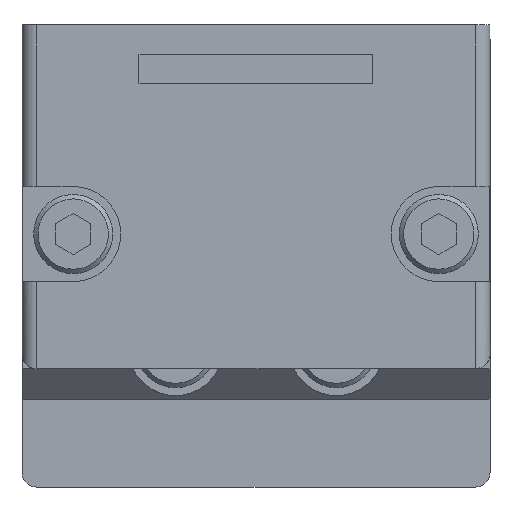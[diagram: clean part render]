
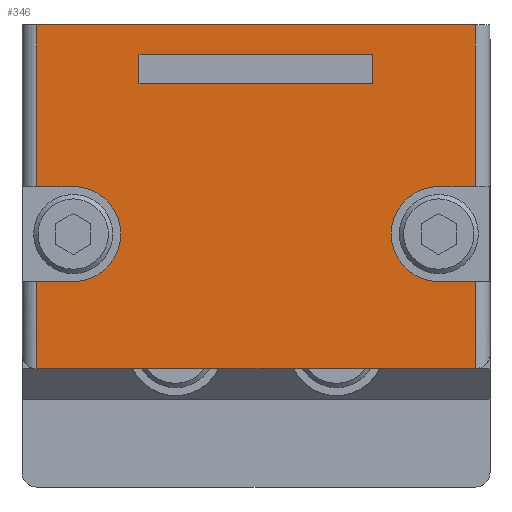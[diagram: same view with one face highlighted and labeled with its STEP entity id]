
A CAD part, front view. The second image highlights one B-rep face of the part: STEP entity #346.
In plain terms, the highlighted planar face has unit normal (0, -1, 0).
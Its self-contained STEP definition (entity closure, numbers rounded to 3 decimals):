
#346=ADVANCED_FACE('',(#935,#936),#937,.F.);
#935=FACE_BOUND('',#1871,.T.);
#936=FACE_OUTER_BOUND('',#1872,.T.);
#937=PLANE('',#1873);
#1871=EDGE_LOOP('',(#2935,#2936,#2937,#2938));
#1872=EDGE_LOOP('',(#2939,#2940,#2941,#2942,#2943,#2944,#2945,#2946,#2947,#2948,#2949,#2950));
#1873=AXIS2_PLACEMENT_3D('',#2951,#2952,#2953);
#2935=ORIENTED_EDGE('',*,*,#4911,.F.);
#2936=ORIENTED_EDGE('',*,*,#4912,.T.);
#2937=ORIENTED_EDGE('',*,*,#4913,.T.);
#2938=ORIENTED_EDGE('',*,*,#4914,.T.);
#2939=ORIENTED_EDGE('',*,*,#4915,.F.);
#2940=ORIENTED_EDGE('',*,*,#4916,.T.);
#2941=ORIENTED_EDGE('',*,*,#4917,.T.);
#2942=ORIENTED_EDGE('',*,*,#4918,.T.);
#2943=ORIENTED_EDGE('',*,*,#4919,.T.);
#2944=ORIENTED_EDGE('',*,*,#4920,.T.);
#2945=ORIENTED_EDGE('',*,*,#4921,.F.);
#2946=ORIENTED_EDGE('',*,*,#4922,.T.);
#2947=ORIENTED_EDGE('',*,*,#4923,.T.);
#2948=ORIENTED_EDGE('',*,*,#4778,.T.);
#2949=ORIENTED_EDGE('',*,*,#4854,.T.);
#2950=ORIENTED_EDGE('',*,*,#4924,.T.);
#2951=CARTESIAN_POINT('',(16.,-38.,-1.4));
#2952=DIRECTION('',(-0.0,1.0,0.0));
#2953=DIRECTION('',(1.0,0.0,0.0));
#4778=EDGE_CURVE('',#5549,#5550,#5551,.T.);
#4854=EDGE_CURVE('',#5550,#5682,#5684,.T.);
#4911=EDGE_CURVE('',#5779,#5780,#5781,.T.);
#4912=EDGE_CURVE('',#5779,#5782,#5783,.T.);
#4913=EDGE_CURVE('',#5782,#5784,#5785,.T.);
#4914=EDGE_CURVE('',#5784,#5780,#5786,.T.);
#4915=EDGE_CURVE('',#5787,#5788,#5789,.T.);
#4916=EDGE_CURVE('',#5787,#5790,#5791,.T.);
#4917=EDGE_CURVE('',#5790,#5792,#5793,.T.);
#4918=EDGE_CURVE('',#5792,#5794,#5795,.T.);
#4919=EDGE_CURVE('',#5794,#5796,#5797,.T.);
#4920=EDGE_CURVE('',#5796,#5798,#5799,.T.);
#4921=EDGE_CURVE('',#5800,#5798,#5801,.T.);
#4922=EDGE_CURVE('',#5800,#5802,#5803,.T.);
#4923=EDGE_CURVE('',#5802,#5549,#5804,.T.);
#4924=EDGE_CURVE('',#5682,#5788,#5805,.T.);
#5549=VERTEX_POINT('',#6682);
#5550=VERTEX_POINT('',#6683);
#5551=CIRCLE('',#6684,3.25);
#5682=VERTEX_POINT('',#6861);
#5684=LINE('',#6863,#6864);
#5779=VERTEX_POINT('',#6990);
#5780=VERTEX_POINT('',#6991);
#5781=LINE('',#6992,#6993);
#5782=VERTEX_POINT('',#6994);
#5783=LINE('',#6995,#6996);
#5784=VERTEX_POINT('',#6997);
#5785=LINE('',#6998,#6999);
#5786=LINE('',#7000,#7001);
#5787=VERTEX_POINT('',#7002);
#5788=VERTEX_POINT('',#7003);
#5789=LINE('',#7004,#7005);
#5790=VERTEX_POINT('',#7006);
#5791=LINE('',#7007,#7008);
#5792=VERTEX_POINT('',#7009);
#5793=LINE('',#7010,#7011);
#5794=VERTEX_POINT('',#7012);
#5795=CIRCLE('',#7013,3.25);
#5796=VERTEX_POINT('',#7014);
#5797=LINE('',#7015,#7016);
#5798=VERTEX_POINT('',#7017);
#5799=LINE('',#7018,#7019);
#5800=VERTEX_POINT('',#7020);
#5801=LINE('',#7021,#7022);
#5802=VERTEX_POINT('',#7023);
#5803=LINE('',#7024,#7025);
#5804=LINE('',#7026,#7027);
#5805=LINE('',#7028,#7029);
#6682=CARTESIAN_POINT('',(-12.5,-38.,11.05));
#6683=CARTESIAN_POINT('',(-12.5,-38.,4.55));
#6684=AXIS2_PLACEMENT_3D('',#8181,#8182,#8183);
#6861=CARTESIAN_POINT('',(-15.,-38.,4.55));
#6863=CARTESIAN_POINT('',(-12.5,-38.,4.55));
#6864=VECTOR('',#8272,1.0);
#6990=CARTESIAN_POINT('',(8.,-38.0,20.1));
#6991=CARTESIAN_POINT('',(-8.,-38.0,20.1));
#6992=CARTESIAN_POINT('',(16.,-38.0,20.1));
#6993=VECTOR('',#8343,1.0);
#6994=CARTESIAN_POINT('',(8.,-38.,18.1));
#6995=CARTESIAN_POINT('',(8.,-38.,20.1));
#6996=VECTOR('',#8344,1.0);
#6997=CARTESIAN_POINT('',(-8.,-38.,18.1));
#6998=CARTESIAN_POINT('',(8.,-38.,18.1));
#6999=VECTOR('',#8345,1.0);
#7000=CARTESIAN_POINT('',(-8.,-38.,18.1));
#7001=VECTOR('',#8346,1.0);
#7002=CARTESIAN_POINT('',(15.,-38.,-1.4));
#7003=CARTESIAN_POINT('',(-15.,-38.,-1.4));
#7004=CARTESIAN_POINT('',(16.,-38.,-1.4));
#7005=VECTOR('',#8347,1.0);
#7006=CARTESIAN_POINT('',(15.,-38.,4.55));
#7007=CARTESIAN_POINT('',(15.,-38.,-1.4));
#7008=VECTOR('',#8348,1.0);
#7009=CARTESIAN_POINT('',(12.5,-38.,4.55));
#7010=CARTESIAN_POINT('',(16.,-38.,4.55));
#7011=VECTOR('',#8349,1.0);
#7012=CARTESIAN_POINT('',(12.5,-38.,11.05));
#7013=AXIS2_PLACEMENT_3D('',#8350,#8351,#8352);
#7014=CARTESIAN_POINT('',(15.,-38.,11.05));
#7015=CARTESIAN_POINT('',(12.5,-38.,11.05));
#7016=VECTOR('',#8353,1.0);
#7017=CARTESIAN_POINT('',(15.,-38.0,22.1));
#7018=CARTESIAN_POINT('',(15.,-38.,-1.4));
#7019=VECTOR('',#8354,1.0);
#7020=CARTESIAN_POINT('',(-15.,-38.0,22.1));
#7021=CARTESIAN_POINT('',(-16.,-38.0,22.1));
#7022=VECTOR('',#8355,1.0);
#7023=CARTESIAN_POINT('',(-15.,-38.,11.05));
#7024=CARTESIAN_POINT('',(-15.,-38.,-1.4));
#7025=VECTOR('',#8356,1.0);
#7026=CARTESIAN_POINT('',(-16.,-38.,11.05));
#7027=VECTOR('',#8357,1.0);
#7028=CARTESIAN_POINT('',(-15.,-38.,-1.4));
#7029=VECTOR('',#8358,1.0);
#8181=CARTESIAN_POINT('',(-12.5,-38.,7.8));
#8182=DIRECTION('',(0.0,1.0,0.0));
#8183=DIRECTION('',(-1.0,0.0,0.0));
#8272=DIRECTION('',(-1.0,0.0,0.0));
#8343=DIRECTION('',(-1.0,0.0,0.0));
#8344=DIRECTION('',(0.0,0.0,-1.0));
#8345=DIRECTION('',(-1.0,0.0,0.0));
#8346=DIRECTION('',(0.0,0.0,1.0));
#8347=DIRECTION('',(-1.0,0.0,0.0));
#8348=DIRECTION('',(0.0,0.0,1.0));
#8349=DIRECTION('',(-1.0,0.0,0.0));
#8350=CARTESIAN_POINT('',(12.5,-38.,7.8));
#8351=DIRECTION('',(0.0,1.0,0.0));
#8352=DIRECTION('',(-1.0,0.0,0.0));
#8353=DIRECTION('',(1.0,0.0,0.0));
#8354=DIRECTION('',(0.0,0.0,1.0));
#8355=DIRECTION('',(1.0,0.0,0.0));
#8356=DIRECTION('',(0.0,0.0,-1.0));
#8357=DIRECTION('',(1.0,0.0,0.0));
#8358=DIRECTION('',(0.0,0.0,-1.0));
